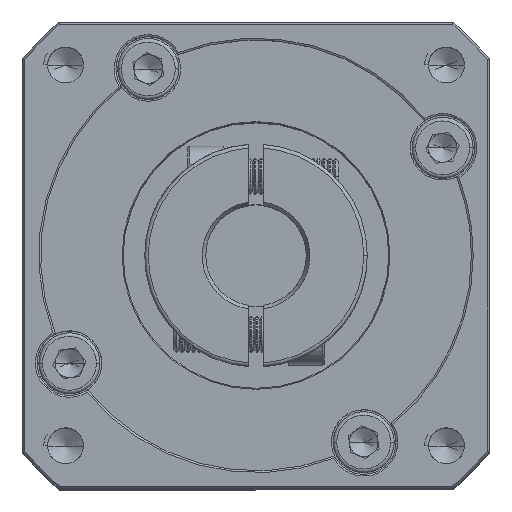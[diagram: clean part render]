
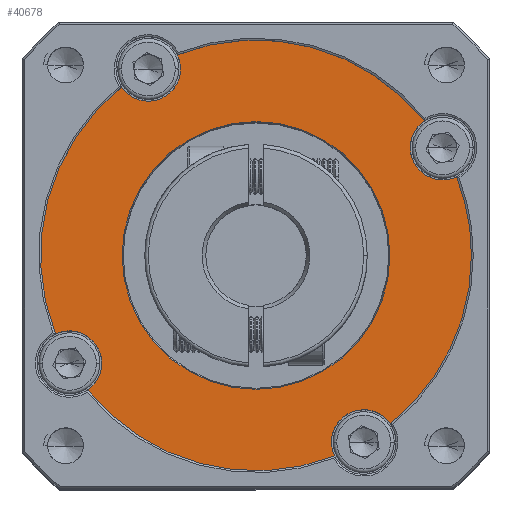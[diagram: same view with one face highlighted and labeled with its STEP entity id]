
A CAD part, top view. The second image highlights one B-rep face of the part: STEP entity #40678.
In plain terms, the highlighted planar face has unit normal (0, 0, 1).
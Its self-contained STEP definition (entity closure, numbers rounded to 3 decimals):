
#730 = DIRECTION ( 'NONE',  ( 1., 0., 0. ) ) ;
#1133 = AXIS2_PLACEMENT_3D ( 'NONE', #104393, #48052, #112933 ) ;
#1302 = ORIENTED_EDGE ( 'NONE', *, *, #31066, .F. ) ;
#1339 = EDGE_CURVE ( 'NONE', #112848, #13272, #19073, .T. ) ;
#2494 = CARTESIAN_POINT ( 'NONE',  ( -37.248, 33.354, 1.199 ) ) ;
#5607 = DIRECTION ( 'NONE',  ( 1., 0., 0. ) ) ;
#5750 = DIRECTION ( 'NONE',  ( 0., 0., 1. ) ) ;
#5778 = ORIENTED_EDGE ( 'NONE', *, *, #33207, .T. ) ;
#6285 = ORIENTED_EDGE ( 'NONE', *, *, #33366, .F. ) ;
#6300 = CARTESIAN_POINT ( 'NONE',  ( -63.229, 18.354, 1.199 ) ) ;
#6769 = DIRECTION ( 'NONE',  ( 1., 0., 0. ) ) ;
#8383 = VERTEX_POINT ( 'NONE', #17086 ) ;
#9064 = CIRCLE ( 'NONE', #22791, 30. ) ;
#10060 = DIRECTION ( 'NONE',  ( 0., 0., 1. ) ) ;
#10106 = EDGE_CURVE ( 'NONE', #82168, #55162, #88311, .T. ) ;
#10192 = AXIS2_PLACEMENT_3D ( 'NONE', #2494, #105457, #114783 ) ;
#10641 = EDGE_CURVE ( 'NONE', #62417, #82168, #19760, .T. ) ;
#12610 = AXIS2_PLACEMENT_3D ( 'NONE', #64309, #27342, #92241 ) ;
#12984 = CIRCLE ( 'NONE', #96666, 4.5 ) ;
#13272 = VERTEX_POINT ( 'NONE', #67852 ) ;
#14599 = DIRECTION ( 'NONE',  ( 0., 0., 1. ) ) ;
#15316 = CARTESIAN_POINT ( 'NONE',  ( -37.248, 33.354, 1.199 ) ) ;
#15345 = AXIS2_PLACEMENT_3D ( 'NONE', #64096, #10060, #730 ) ;
#15776 = CARTESIAN_POINT ( 'NONE',  ( -22.248, 7.373, 1.199 ) ) ;
#17034 = CARTESIAN_POINT ( 'NONE',  ( -9.316, 44.299, 1.199 ) ) ;
#17086 = CARTESIAN_POINT ( 'NONE',  ( -48.193, 61.286, 1.199 ) ) ;
#17333 = ORIENTED_EDGE ( 'NONE', *, *, #81130, .F. ) ;
#19073 = CIRCLE ( 'NONE', #55351, 18.644 ) ;
#19586 = VERTEX_POINT ( 'NONE', #83908 ) ;
#19594 = CARTESIAN_POINT ( 'NONE',  ( -55.965, 56.799, 1.199 ) ) ;
#19760 = CIRCLE ( 'NONE', #29225, 4.5 ) ;
#21114 = EDGE_CURVE ( 'NONE', #87037, #8383, #111006, .T. ) ;
#22341 = CARTESIAN_POINT ( 'NONE',  ( -60.693, 14.637, 1.199 ) ) ;
#22791 = AXIS2_PLACEMENT_3D ( 'NONE', #71971, #81760, #53743 ) ;
#23204 = CARTESIAN_POINT ( 'NONE',  ( -65.18, 22.409, 1.199 ) ) ;
#23307 = AXIS2_PLACEMENT_3D ( 'NONE', #15776, #53483, #6769 ) ;
#24970 = DIRECTION ( 'NONE',  ( 0., 0., 1. ) ) ;
#25279 = AXIS2_PLACEMENT_3D ( 'NONE', #97330, #14599, #116724 ) ;
#25847 = ORIENTED_EDGE ( 'NONE', *, *, #10106, .F. ) ;
#26534 = DIRECTION ( 'NONE',  ( 1., 0., 0. ) ) ;
#27342 = DIRECTION ( 'NONE',  ( 0., 0., 1. ) ) ;
#27523 = ORIENTED_EDGE ( 'NONE', *, *, #21114, .T. ) ;
#27728 = DIRECTION ( 'NONE',  ( 0., 0., -1. ) ) ;
#28958 = EDGE_CURVE ( 'NONE', #75408, #102552, #9064, .T. ) ;
#29225 = AXIS2_PLACEMENT_3D ( 'NONE', #6300, #24970, #26534 ) ;
#30873 = CARTESIAN_POINT ( 'NONE',  ( -52.248, 59.335, 1.199 ) ) ;
#31066 = EDGE_CURVE ( 'NONE', #84797, #52130, #34265, .T. ) ;
#31348 = DIRECTION ( 'NONE',  ( 0., 0., 1. ) ) ;
#32733 = AXIS2_PLACEMENT_3D ( 'NONE', #79582, #33256, #42606 ) ;
#32925 = AXIS2_PLACEMENT_3D ( 'NONE', #111356, #94291, #84269 ) ;
#33207 = EDGE_CURVE ( 'NONE', #19586, #75408, #94905, .T. ) ;
#33256 = DIRECTION ( 'NONE',  ( 0., 0., 1. ) ) ;
#33366 = EDGE_CURVE ( 'NONE', #120383, #102552, #86222, .T. ) ;
#34265 = CIRCLE ( 'NONE', #15345, 4.5 ) ;
#36631 = CARTESIAN_POINT ( 'NONE',  ( -37.248, 33.354, 1.199 ) ) ;
#37678 = ORIENTED_EDGE ( 'NONE', *, *, #1339, .T. ) ;
#40678 = ADVANCED_FACE ( 'NONE', ( #114992, #99121 ), #63105, .T. ) ;
#42606 = DIRECTION ( 'NONE',  ( 1., 0., 0. ) ) ;
#45546 = ORIENTED_EDGE ( 'NONE', *, *, #109444, .T. ) ;
#46949 = AXIS2_PLACEMENT_3D ( 'NONE', #111563, #54843, #101464 ) ;
#48052 = DIRECTION ( 'NONE',  ( 0., 0., -1. ) ) ;
#50865 = AXIS2_PLACEMENT_3D ( 'NONE', #104761, #31348, #86153 ) ;
#51379 = CIRCLE ( 'NONE', #25279, 30. ) ;
#51481 = DIRECTION ( 'NONE',  ( 0., 0., 1. ) ) ;
#52130 = VERTEX_POINT ( 'NONE', #119312 ) ;
#52135 = ORIENTED_EDGE ( 'NONE', *, *, #109087, .T. ) ;
#53483 = DIRECTION ( 'NONE',  ( 0., 0., 1. ) ) ;
#53506 = EDGE_CURVE ( 'NONE', #87037, #120383, #99413, .T. ) ;
#53743 = DIRECTION ( 'NONE',  ( 1., 0., 0. ) ) ;
#54843 = DIRECTION ( 'NONE',  ( 0., 0., 1. ) ) ;
#55162 = VERTEX_POINT ( 'NONE', #23204 ) ;
#55351 = AXIS2_PLACEMENT_3D ( 'NONE', #36631, #27728, #65100 ) ;
#55559 = ORIENTED_EDGE ( 'NONE', *, *, #53506, .F. ) ;
#56813 = ORIENTED_EDGE ( 'NONE', *, *, #28958, .T. ) ;
#57486 = CARTESIAN_POINT ( 'NONE',  ( -26.748, 7.373, 1.199 ) ) ;
#58894 = CIRCLE ( 'NONE', #89037, 30. ) ;
#59620 = CARTESIAN_POINT ( 'NONE',  ( -55.892, 33.354, 1.199 ) ) ;
#61222 = CARTESIAN_POINT ( 'NONE',  ( -63.229, 18.354, 1.199 ) ) ;
#62154 = DIRECTION ( 'NONE',  ( 1., 0., 0. ) ) ;
#62417 = VERTEX_POINT ( 'NONE', #22341 ) ;
#63105 = PLANE ( 'NONE',  #12610 ) ;
#64096 = CARTESIAN_POINT ( 'NONE',  ( -52.248, 59.335, 1.199 ) ) ;
#64309 = CARTESIAN_POINT ( 'NONE',  ( -37.248, 33.354, 1.199 ) ) ;
#65100 = DIRECTION ( 'NONE',  ( 1., 0., 0. ) ) ;
#67313 = CIRCLE ( 'NONE', #23307, 4.5 ) ;
#67852 = CARTESIAN_POINT ( 'NONE',  ( -18.604, 33.354, 1.199 ) ) ;
#70700 = CARTESIAN_POINT ( 'NONE',  ( -7.248, 33.354, 1.199 ) ) ;
#71971 = CARTESIAN_POINT ( 'NONE',  ( -37.248, 33.354, 1.199 ) ) ;
#74111 = EDGE_LOOP ( 'NONE', ( #111860, #100314, #75626, #81381, #5778, #56813, #6285, #55559, #27523, #17333, #1302, #45546, #25847 ) ) ;
#75408 = VERTEX_POINT ( 'NONE', #70700 ) ;
#75626 = ORIENTED_EDGE ( 'NONE', *, *, #84149, .F. ) ;
#79582 = CARTESIAN_POINT ( 'NONE',  ( -11.267, 48.354, 1.199 ) ) ;
#80263 = DIRECTION ( 'NONE',  ( 0., 0., 1. ) ) ;
#81130 = EDGE_CURVE ( 'NONE', #52130, #8383, #12984, .T. ) ;
#81381 = ORIENTED_EDGE ( 'NONE', *, *, #115260, .F. ) ;
#81760 = DIRECTION ( 'NONE',  ( 0., 0., 1. ) ) ;
#82168 = VERTEX_POINT ( 'NONE', #95812 ) ;
#83141 = VERTEX_POINT ( 'NONE', #57486 ) ;
#83908 = CARTESIAN_POINT ( 'NONE',  ( -18.531, 9.909, 1.199 ) ) ;
#84149 = EDGE_CURVE ( 'NONE', #83141, #106963, #67313, .T. ) ;
#84269 = DIRECTION ( 'NONE',  ( 1., 0., 0. ) ) ;
#84457 = EDGE_LOOP ( 'NONE', ( #52135, #37678 ) ) ;
#84797 = VERTEX_POINT ( 'NONE', #19594 ) ;
#86153 = DIRECTION ( 'NONE',  ( 1., 0., 0. ) ) ;
#86222 = CIRCLE ( 'NONE', #32733, 4.5 ) ;
#87037 = VERTEX_POINT ( 'NONE', #88101 ) ;
#87781 = EDGE_CURVE ( 'NONE', #62417, #106963, #58894, .T. ) ;
#88101 = CARTESIAN_POINT ( 'NONE',  ( -13.803, 52.071, 1.199 ) ) ;
#88311 = CIRCLE ( 'NONE', #89845, 4.5 ) ;
#89037 = AXIS2_PLACEMENT_3D ( 'NONE', #15316, #80263, #117473 ) ;
#89845 = AXIS2_PLACEMENT_3D ( 'NONE', #61222, #51481, #5607 ) ;
#92241 = DIRECTION ( 'NONE',  ( 1., 0., 0. ) ) ;
#94291 = DIRECTION ( 'NONE',  ( 0., 0., 1. ) ) ;
#94905 = CIRCLE ( 'NONE', #10192, 30. ) ;
#95812 = CARTESIAN_POINT ( 'NONE',  ( -58.729, 18.354, 1.199 ) ) ;
#96666 = AXIS2_PLACEMENT_3D ( 'NONE', #30873, #5750, #62154 ) ;
#97330 = CARTESIAN_POINT ( 'NONE',  ( -37.248, 33.354, 1.199 ) ) ;
#99121 = FACE_OUTER_BOUND ( 'NONE', #74111, .T. ) ;
#99413 = CIRCLE ( 'NONE', #50865, 4.5 ) ;
#100314 = ORIENTED_EDGE ( 'NONE', *, *, #87781, .T. ) ;
#100706 = CIRCLE ( 'NONE', #46949, 4.5 ) ;
#101464 = DIRECTION ( 'NONE',  ( 1., 0., 0. ) ) ;
#102552 = VERTEX_POINT ( 'NONE', #17034 ) ;
#104393 = CARTESIAN_POINT ( 'NONE',  ( -37.248, 33.354, 1.199 ) ) ;
#104761 = CARTESIAN_POINT ( 'NONE',  ( -11.267, 48.354, 1.199 ) ) ;
#105457 = DIRECTION ( 'NONE',  ( 0., 0., 1. ) ) ;
#105485 = CARTESIAN_POINT ( 'NONE',  ( -15.767, 48.354, 1.199 ) ) ;
#106963 = VERTEX_POINT ( 'NONE', #114117 ) ;
#109087 = EDGE_CURVE ( 'NONE', #13272, #112848, #118252, .T. ) ;
#109444 = EDGE_CURVE ( 'NONE', #84797, #55162, #51379, .T. ) ;
#111006 = CIRCLE ( 'NONE', #32925, 30. ) ;
#111356 = CARTESIAN_POINT ( 'NONE',  ( -37.248, 33.354, 1.199 ) ) ;
#111563 = CARTESIAN_POINT ( 'NONE',  ( -22.248, 7.373, 1.199 ) ) ;
#111860 = ORIENTED_EDGE ( 'NONE', *, *, #10641, .F. ) ;
#112848 = VERTEX_POINT ( 'NONE', #59620 ) ;
#112933 = DIRECTION ( 'NONE',  ( 1., 0., 0. ) ) ;
#114117 = CARTESIAN_POINT ( 'NONE',  ( -26.303, 5.422, 1.199 ) ) ;
#114783 = DIRECTION ( 'NONE',  ( 1., 0., 0. ) ) ;
#114992 = FACE_BOUND ( 'NONE', #84457, .T. ) ;
#115260 = EDGE_CURVE ( 'NONE', #19586, #83141, #100706, .T. ) ;
#116724 = DIRECTION ( 'NONE',  ( 1., 0., 0. ) ) ;
#117473 = DIRECTION ( 'NONE',  ( 1., 0., 0. ) ) ;
#118252 = CIRCLE ( 'NONE', #1133, 18.644 ) ;
#119312 = CARTESIAN_POINT ( 'NONE',  ( -47.748, 59.335, 1.199 ) ) ;
#120383 = VERTEX_POINT ( 'NONE', #105485 ) ;
